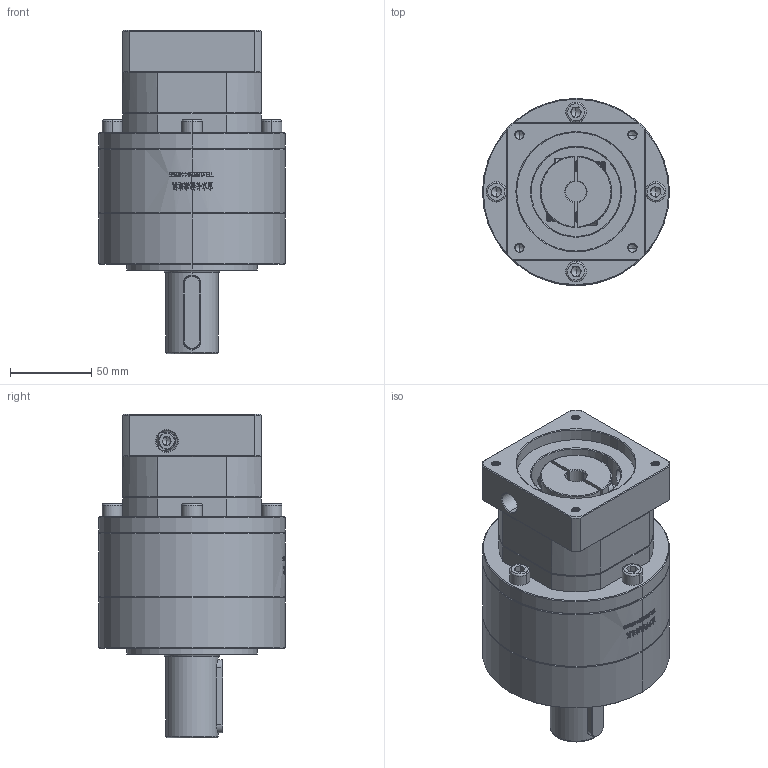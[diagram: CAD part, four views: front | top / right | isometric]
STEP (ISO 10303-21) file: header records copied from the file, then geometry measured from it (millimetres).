
FILE_DESCRIPTION (( 'STEP AP214' ), '1' );
FILE_NAME ('ZE120A-D32-L2-12.7-73-69.5X69.5-M6.step', '2023-03-13T06:50:28', ( '' ), ( '' ), 'SwSTEP 2.0', 'SolidWorks 2016', '' );
FILE_SCHEMA (( 'AUTOMOTIVE_DESIGN' ));
Length unit declared in the file: millimetre
Products named in the file (1): ZE120A-D32-L2-12.7-73-69.5X69.5-M6
Bounding box: 115 x 115 x 199 mm (x, y, z)
Volume: 1232988.5 mm3; surface area: 123278.9 mm2
Topology: 5 solids, 6 shells, 2018 faces, 5320 edges, 3393 vertices
Faces by surface type: plane 862, cylinder 500, bspline 333, cone 308, torus 15
Entity records: 116688 total; most frequent: CARTESIAN_POINT 49236, ORIENTED_EDGE 10564, DIRECTION 7907, EDGE_CURVE 5282, VERTEX_POINT 3393, LINE 2803, VECTOR 2803, AXIS2_PLACEMENT_3D 2552
